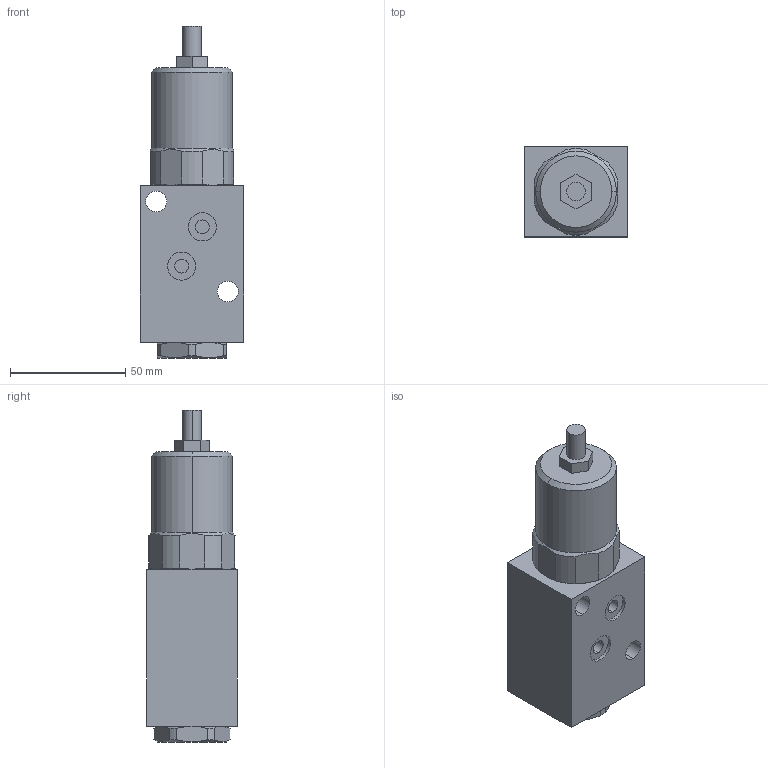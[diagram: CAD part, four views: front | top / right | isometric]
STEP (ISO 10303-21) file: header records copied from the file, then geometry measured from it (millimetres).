
FILE_DESCRIPTION(/* description */ (''),/* implementation_level */ '2;1');
FILE_NAME(/* name */ 'PBGM-LG_step.stp',/* time_stamp */ '2024-10-24T09:19:46+08:00',/* author */ (''),/* organization */ (''),/* preprocessor_version */ 'ST-DEVELOPER v16.7',/* originating_system */ 'SIEMENS PLM Software NX 12.0',/* authorisation */ '');
FILE_SCHEMA (('AP203_CONFIGURATION_CONTROLLED_3D_DESIGN_OF_MECHANICAL_PARTS_AND_ASSEMBLIES_MIM_LF { 1 0 10303 403 2 1 2}'));
Length unit declared in the file: millimetre
Products named in the file (1): VRG-G_step
Bounding box: 45 x 39 x 143.8 mm (x, y, z)
Volume: 170918.7 mm3; surface area: 24098.1 mm2
Topology: 1 solids, 1 shells, 70 faces, 176 edges, 116 vertices
Faces by surface type: plane 32, cylinder 28, cone 10
Entity records: 2270 total; most frequent: CARTESIAN_POINT 483, ORIENTED_EDGE 352, DIRECTION 350, EDGE_CURVE 176, AXIS2_PLACEMENT_3D 135, VERTEX_POINT 116, EDGE_LOOP 82, LINE 80
